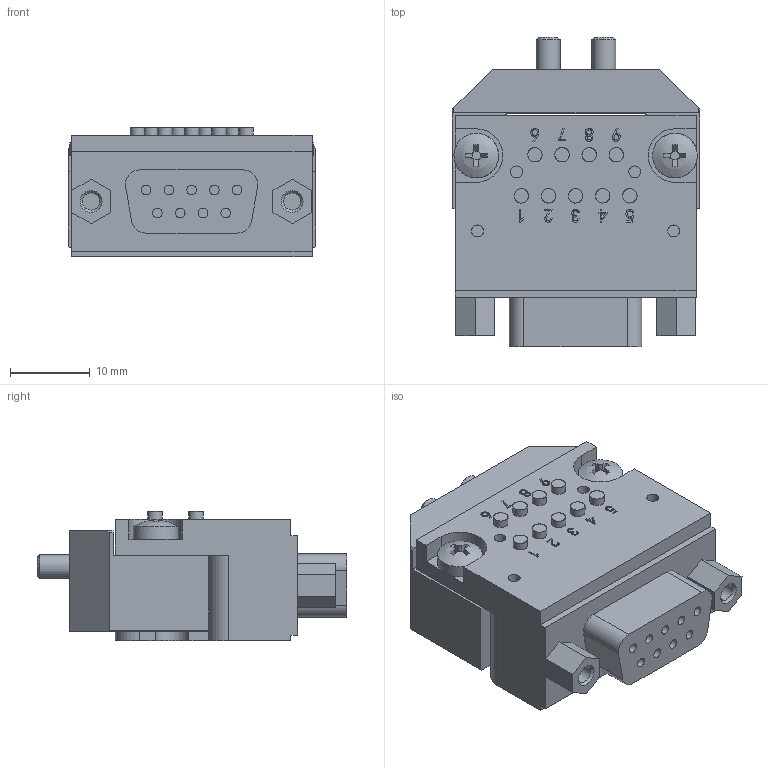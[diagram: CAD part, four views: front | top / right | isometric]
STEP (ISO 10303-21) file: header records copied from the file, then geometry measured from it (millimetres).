
FILE_DESCRIPTION(/* description */ (''),/* implementation_level */ '2;1');
FILE_NAME(/* name */ '9G1',/* time_stamp */ '2020-09-26T16:50:35+08:00',/* author */ (''),/* organization */ (''),/* preprocessor_version */ 'ST-DEVELOPER v9',/* originating_system */ 'UGS - NX 4.0',/* authorisation */ '');
FILE_SCHEMA (('AUTOMOTIVE_DESIGN { 1 0 10303 214 1 1 1 1 }'));
Length unit declared in the file: millimetre
Products named in the file (1): admi1C5698xf
Bounding box: 31 x 38.8 x 16.2 mm (x, y, z)
Volume: 12742.3 mm3; surface area: 6026.1 mm2
Topology: 1 solids, 15 shells, 463 faces, 1095 edges, 717 vertices
Faces by surface type: plane 257, cylinder 106, cone 53, extrusion 30, bspline 9, sphere 6, torus 2
Full cylindrical faces by diameter (mm): 1.2 x9, 1.5 x4, 1.8 x9, 2.156 x2, 2.5 x2, 3 x14, 3.2 x2, 3.5 x2, 4 x4, 4.2 x2, 5.5 x2, 5.6 x2, 6 x2
Entity records: 14526 total; most frequent: CARTESIAN_POINT 4368, DIRECTION 2050, ORIENTED_EDGE 1936, EDGE_CURVE 968, AXIS2_PLACEMENT_3D 749, VERTEX_POINT 685, EDGE_LOOP 617, VECTOR 552
